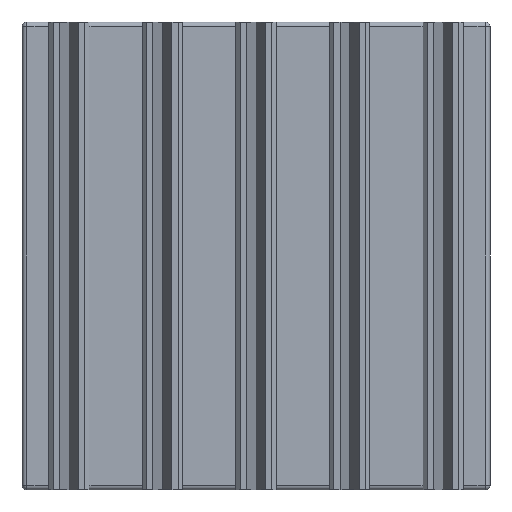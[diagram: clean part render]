
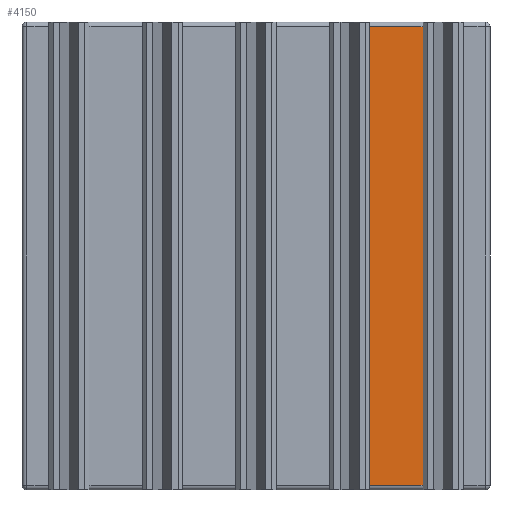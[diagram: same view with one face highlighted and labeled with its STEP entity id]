
A CAD part, front view. The second image highlights one B-rep face of the part: STEP entity #4150.
In plain terms, the highlighted planar face has unit normal (0, -1, 0).
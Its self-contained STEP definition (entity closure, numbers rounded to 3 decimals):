
#156=PLANE('',#4432);
#372=FACE_OUTER_BOUND('',#594,.T.);
#594=EDGE_LOOP('',(#3689,#3690,#3691,#3692));
#664=LINE('',#5608,#1200);
#668=LINE('',#5618,#1204);
#992=LINE('',#6306,#1528);
#993=LINE('',#6308,#1529);
#1200=VECTOR('',#4510,10.);
#1204=VECTOR('',#4518,10.);
#1528=VECTOR('',#4942,10.);
#1529=VECTOR('',#4945,10.);
#1779=VERTEX_POINT('',#5601);
#1782=VERTEX_POINT('',#5606);
#1786=VERTEX_POINT('',#5616);
#2100=VERTEX_POINT('',#6304);
#2174=EDGE_CURVE('',#1782,#1779,#664,.T.);
#2179=EDGE_CURVE('',#1782,#1786,#668,.T.);
#2528=EDGE_CURVE('',#2100,#1786,#992,.T.);
#2529=EDGE_CURVE('',#1779,#2100,#993,.T.);
#3689=ORIENTED_EDGE('',*,*,#2174,.F.);
#3690=ORIENTED_EDGE('',*,*,#2179,.T.);
#3691=ORIENTED_EDGE('',*,*,#2528,.F.);
#3692=ORIENTED_EDGE('',*,*,#2529,.F.);
#4150=ADVANCED_FACE('',(#372),#156,.T.);
#4432=AXIS2_PLACEMENT_3D('',#6684,#5406,#5407);
#4510=DIRECTION('',(-1.,0.,0.));
#4518=DIRECTION('',(0.,0.,1.));
#4942=DIRECTION('',(1.,0.,0.));
#4945=DIRECTION('',(0.,0.,1.));
#5406=DIRECTION('center_axis',(0.,-1.,0.));
#5407=DIRECTION('ref_axis',(1.,0.,0.));
#5601=CARTESIAN_POINT('',(32.05,-5.,0.5));
#5606=CARTESIAN_POINT('',(37.95,-5.,0.5));
#5608=CARTESIAN_POINT('',(16.025,-5.,0.5));
#5616=CARTESIAN_POINT('',(37.95,-5.,49.5));
#5618=CARTESIAN_POINT('',(37.95,-5.,10.));
#6304=CARTESIAN_POINT('',(32.05,-5.,49.5));
#6306=CARTESIAN_POINT('',(16.025,-5.,49.5));
#6308=CARTESIAN_POINT('',(32.05,-5.,0.));
#6684=CARTESIAN_POINT('Origin',(32.05,-5.,0.));
